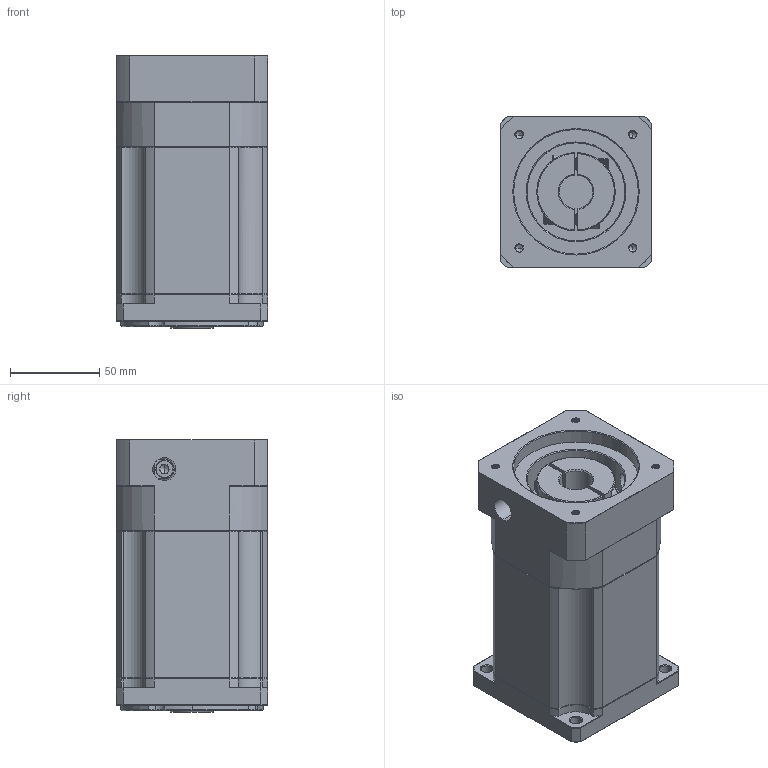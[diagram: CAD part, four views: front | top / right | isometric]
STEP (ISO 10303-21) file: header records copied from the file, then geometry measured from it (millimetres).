
FILE_DESCRIPTION (( 'STEP AP214' ), '1' );
FILE_NAME ('ZB90-K15-L3-19-70-90-M5.STEP', '2022-05-02T15:43:34', ( '' ), ( 'Microsoft' ), 'SwSTEP 2.0', 'SolidWorks 2016', '' );
FILE_SCHEMA (( 'AUTOMOTIVE_DESIGN' ));
Length unit declared in the file: millimetre
Products named in the file (1): ZB90-K15-L3-19-70-90-M5
Bounding box: 85 x 85 x 153 mm (x, y, z)
Volume: 896155.9 mm3; surface area: 97774.3 mm2
Topology: 4 solids, 4 shells, 1851 faces, 4873 edges, 3098 vertices
Faces by surface type: plane 869, cylinder 352, cone 313, bspline 307, torus 10
Entity records: 98208 total; most frequent: CARTESIAN_POINT 34688, ORIENTED_EDGE 9706, DIRECTION 7829, EDGE_CURVE 4853, VERTEX_POINT 3098, VECTOR 3027, LINE 3027, AXIS2_PLACEMENT_3D 2401
